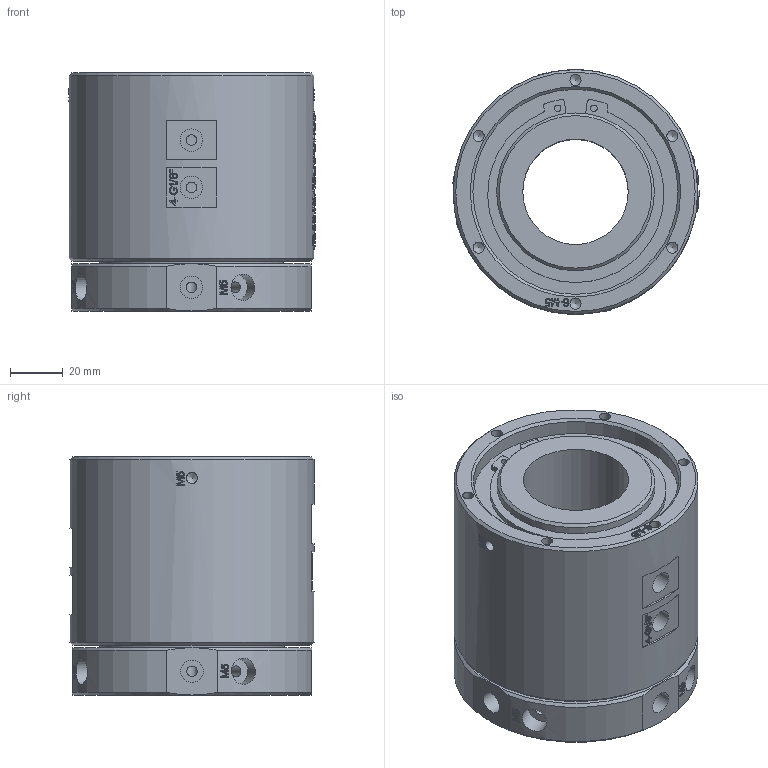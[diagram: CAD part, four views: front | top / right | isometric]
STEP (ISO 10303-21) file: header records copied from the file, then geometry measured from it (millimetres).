
FILE_DESCRIPTION(/* description */ (''),/* implementation_level */ '2;1');
FILE_NAME(/* name */ 'YQ0401-D40-3D模型.stp',/* time_stamp */ '2025-08-06T10:01:29+08:00',/* author */ (''),/* organization */ (''),/* preprocessor_version */ 'ST-DEVELOPER v16.7',/* originating_system */ 'SIEMENS PLM Software NX 12.0',/* authorisation */ '');
FILE_SCHEMA (('AUTOMOTIVE_DESIGN { 1 0 10303 214 3 1 1 1 }'));
Products named in the file (1): Admi3F746D2Ejqpb
Bounding box: 93.6 x 93 x 90.9 mm (x, y, z)
Volume: 471818.9 mm3; surface area: 65427.9 mm2
Topology: 1 solids, 1 shells, 1454 faces, 3970 edges, 2647 vertices
Faces by surface type: extrusion 751, plane 522, cylinder 92, bspline 65, cone 24
Full cylindrical faces by diameter (mm): 2.5 x2, 4 x12, 4.1 x4, 4.2 x16, 6.8 x4, 8.5 x8, 10 x4, 40.1 x1, 57 x1, 60 x1, 70 x1, 78 x1, 93 x1
Entity records: 57120 total; most frequent: CARTESIAN_POINT 26466, ORIENTED_EDGE 7694, EDGE_CURVE 3847, B_SPLINE_CURVE_WITH_KNOTS 3694, DIRECTION 3297, VERTEX_POINT 2614, EDGE_LOOP 1671, ADVANCED_FACE 1454
